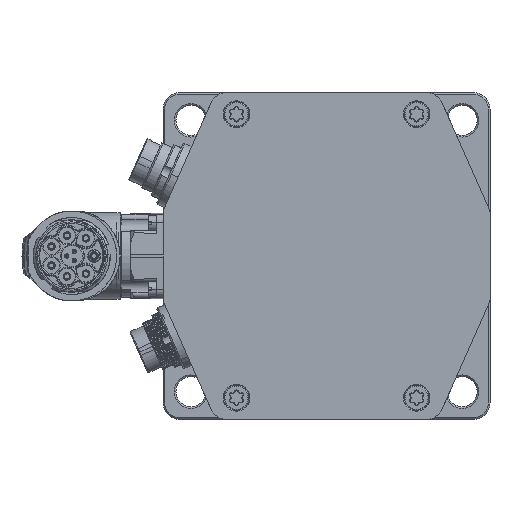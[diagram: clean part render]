
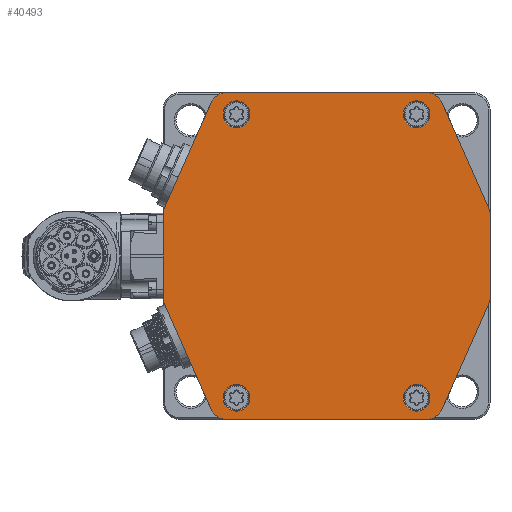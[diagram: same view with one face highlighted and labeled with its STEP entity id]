
A CAD part, left-side view. The second image highlights one B-rep face of the part: STEP entity #40493.
In plain terms, the highlighted planar face has unit normal (-1, 0, 0).
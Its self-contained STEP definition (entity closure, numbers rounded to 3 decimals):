
#2376=CARTESIAN_POINT('',(-275.,-30.,-44.));
#2377=DIRECTION('',(-1.,0.,0.));
#2378=DIRECTION('',(0.,0.,-1.));
#2379=AXIS2_PLACEMENT_3D('',#2376,#2377,#2378);
#2381=DIRECTION('',(0.,-1.,0.));
#2382=VECTOR('',#2381,60.);
#2383=CARTESIAN_POINT('',(-275.,30.,-49.));
#2384=LINE('',#2383,#2382);
#2385=CARTESIAN_POINT('',(-275.,30.,-44.));
#2386=DIRECTION('',(-1.,0.,0.));
#2387=DIRECTION('',(0.,0.914,-0.405));
#2388=AXIS2_PLACEMENT_3D('',#2385,#2386,#2387);
#2390=DIRECTION('',(0.,-0.405,-0.914));
#2391=VECTOR('',#2390,35.228);
#2392=CARTESIAN_POINT('',(-275.,48.829,-13.809));
#2393=LINE('',#2392,#2391);
#2394=CARTESIAN_POINT('',(-275.,47.,-13.));
#2395=DIRECTION('',(-1.,0.,0.));
#2396=DIRECTION('',(0.,1.,0.));
#2397=AXIS2_PLACEMENT_3D('',#2394,#2395,#2396);
#2399=DIRECTION('',(0.,0.,-1.));
#2400=VECTOR('',#2399,26.);
#2401=CARTESIAN_POINT('',(-275.,49.,13.));
#2402=LINE('',#2401,#2400);
#2403=CARTESIAN_POINT('',(-275.,47.,13.));
#2404=DIRECTION('',(-1.,0.,0.));
#2405=DIRECTION('',(0.,0.914,0.405));
#2406=AXIS2_PLACEMENT_3D('',#2403,#2404,#2405);
#2408=DIRECTION('',(0.,0.405,-0.914));
#2409=VECTOR('',#2408,35.228);
#2410=CARTESIAN_POINT('',(-275.,34.572,46.023));
#2411=LINE('',#2410,#2409);
#2412=CARTESIAN_POINT('',(-275.,30.,44.));
#2413=DIRECTION('',(-1.,0.,0.));
#2414=DIRECTION('',(0.,0.,1.));
#2415=AXIS2_PLACEMENT_3D('',#2412,#2413,#2414);
#2417=DIRECTION('',(0.,1.,0.));
#2418=VECTOR('',#2417,60.);
#2419=CARTESIAN_POINT('',(-275.,-30.,49.));
#2420=LINE('',#2419,#2418);
#2421=CARTESIAN_POINT('',(-275.,-30.,44.));
#2422=DIRECTION('',(-1.,0.,0.));
#2423=DIRECTION('',(0.,-0.914,0.405));
#2424=AXIS2_PLACEMENT_3D('',#2421,#2422,#2423);
#2426=DIRECTION('',(0.,0.405,0.914));
#2427=VECTOR('',#2426,35.228);
#2428=CARTESIAN_POINT('',(-275.,-48.829,13.809));
#2429=LINE('',#2428,#2427);
#2430=CARTESIAN_POINT('',(-275.,-47.,13.));
#2431=DIRECTION('',(-1.,0.,0.));
#2432=DIRECTION('',(0.,-1.,0.));
#2433=AXIS2_PLACEMENT_3D('',#2430,#2431,#2432);
#2435=DIRECTION('',(0.,0.,1.));
#2436=VECTOR('',#2435,26.);
#2437=CARTESIAN_POINT('',(-275.,-49.,-13.));
#2438=LINE('',#2437,#2436);
#2439=CARTESIAN_POINT('',(-275.,-47.,-13.));
#2440=DIRECTION('',(-1.,0.,0.));
#2441=DIRECTION('',(0.,-0.914,-0.405));
#2442=AXIS2_PLACEMENT_3D('',#2439,#2440,#2441);
#2444=DIRECTION('',(0.,-0.405,0.914));
#2445=VECTOR('',#2444,35.228);
#2446=CARTESIAN_POINT('',(-275.,-34.572,-46.023));
#2447=LINE('',#2446,#2445);
#2448=CARTESIAN_POINT('',(-275.,27.,-42.5));
#2449=DIRECTION('',(-1.,0.,0.));
#2450=DIRECTION('',(0.,0.,-1.));
#2451=AXIS2_PLACEMENT_3D('',#2448,#2449,#2450);
#2453=CARTESIAN_POINT('',(-275.,27.,-42.5));
#2454=DIRECTION('',(-1.,0.,0.));
#2455=DIRECTION('',(0.,0.,1.));
#2456=AXIS2_PLACEMENT_3D('',#2453,#2454,#2455);
#2458=CARTESIAN_POINT('',(-275.,27.,42.5));
#2459=DIRECTION('',(1.,0.,0.));
#2460=DIRECTION('',(0.,0.,1.));
#2461=AXIS2_PLACEMENT_3D('',#2458,#2459,#2460);
#2463=CARTESIAN_POINT('',(-275.,27.,42.5));
#2464=DIRECTION('',(1.,0.,0.));
#2465=DIRECTION('',(0.,0.,-1.));
#2466=AXIS2_PLACEMENT_3D('',#2463,#2464,#2465);
#2468=CARTESIAN_POINT('',(-275.,-27.,-42.5));
#2469=DIRECTION('',(1.,0.,0.));
#2470=DIRECTION('',(0.,0.,-1.));
#2471=AXIS2_PLACEMENT_3D('',#2468,#2469,#2470);
#2473=CARTESIAN_POINT('',(-275.,-27.,-42.5));
#2474=DIRECTION('',(1.,0.,0.));
#2475=DIRECTION('',(0.,0.,1.));
#2476=AXIS2_PLACEMENT_3D('',#2473,#2474,#2475);
#2478=CARTESIAN_POINT('',(-275.,-27.,42.5));
#2479=DIRECTION('',(-1.,0.,0.));
#2480=DIRECTION('',(0.,0.,1.));
#2481=AXIS2_PLACEMENT_3D('',#2478,#2479,#2480);
#2483=CARTESIAN_POINT('',(-275.,-27.,42.5));
#2484=DIRECTION('',(-1.,0.,0.));
#2485=DIRECTION('',(0.,0.,-1.));
#2486=AXIS2_PLACEMENT_3D('',#2483,#2484,#2485);
#36277=CARTESIAN_POINT('',(-275.,-30.,-49.));
#36278=CARTESIAN_POINT('',(-275.,-34.572,-46.023));
#36279=VERTEX_POINT('',#36277);
#36280=VERTEX_POINT('',#36278);
#36281=CARTESIAN_POINT('',(-275.,-48.829,-13.809));
#36282=VERTEX_POINT('',#36281);
#36283=CARTESIAN_POINT('',(-275.,-49.,-13.));
#36284=VERTEX_POINT('',#36283);
#36285=CARTESIAN_POINT('',(-275.,-49.,13.));
#36286=VERTEX_POINT('',#36285);
#36287=CARTESIAN_POINT('',(-275.,-48.829,13.809));
#36288=VERTEX_POINT('',#36287);
#36289=CARTESIAN_POINT('',(-275.,-34.572,46.023));
#36290=VERTEX_POINT('',#36289);
#36291=CARTESIAN_POINT('',(-275.,-30.,49.));
#36292=VERTEX_POINT('',#36291);
#36293=CARTESIAN_POINT('',(-275.,30.,49.));
#36294=VERTEX_POINT('',#36293);
#36295=CARTESIAN_POINT('',(-275.,34.572,46.023));
#36296=VERTEX_POINT('',#36295);
#36297=CARTESIAN_POINT('',(-275.,48.829,13.809));
#36298=VERTEX_POINT('',#36297);
#36299=CARTESIAN_POINT('',(-275.,49.,13.));
#36300=VERTEX_POINT('',#36299);
#36301=CARTESIAN_POINT('',(-275.,49.,-13.));
#36302=VERTEX_POINT('',#36301);
#36303=CARTESIAN_POINT('',(-275.,48.829,-13.809));
#36304=VERTEX_POINT('',#36303);
#36305=CARTESIAN_POINT('',(-275.,34.572,-46.023));
#36306=VERTEX_POINT('',#36305);
#36307=CARTESIAN_POINT('',(-275.,30.,-49.));
#36308=VERTEX_POINT('',#36307);
#36321=CARTESIAN_POINT('',(-275.,27.,-46.5));
#36322=CARTESIAN_POINT('',(-275.,27.,-38.5));
#36323=VERTEX_POINT('',#36321);
#36324=VERTEX_POINT('',#36322);
#36329=CARTESIAN_POINT('',(-275.,27.,46.5));
#36330=VERTEX_POINT('',#36329);
#36331=CARTESIAN_POINT('',(-275.,27.,38.5));
#36332=VERTEX_POINT('',#36331);
#36337=CARTESIAN_POINT('',(-275.,-27.,-46.5));
#36338=VERTEX_POINT('',#36337);
#36339=CARTESIAN_POINT('',(-275.,-27.,-38.5));
#36340=VERTEX_POINT('',#36339);
#36345=CARTESIAN_POINT('',(-275.,-27.,46.5));
#36346=VERTEX_POINT('',#36345);
#36347=CARTESIAN_POINT('',(-275.,-27.,38.5));
#36348=VERTEX_POINT('',#36347);
#40446=CARTESIAN_POINT('',(-275.,0.,0.));
#40447=DIRECTION('',(-1.,0.,0.));
#40448=DIRECTION('',(0.,1.,0.));
#40449=AXIS2_PLACEMENT_3D('',#40446,#40447,#40448);
#40450=PLANE('',#40449);
#40451=ORIENTED_EDGE('',*,*,#40230,.F.);
#40452=ORIENTED_EDGE('',*,*,#40245,.F.);
#40453=ORIENTED_EDGE('',*,*,#40259,.F.);
#40454=ORIENTED_EDGE('',*,*,#40273,.F.);
#40455=ORIENTED_EDGE('',*,*,#40287,.F.);
#40456=ORIENTED_EDGE('',*,*,#40301,.F.);
#40457=ORIENTED_EDGE('',*,*,#40315,.F.);
#40458=ORIENTED_EDGE('',*,*,#40329,.F.);
#40459=ORIENTED_EDGE('',*,*,#40343,.F.);
#40460=ORIENTED_EDGE('',*,*,#40357,.F.);
#40461=ORIENTED_EDGE('',*,*,#40371,.F.);
#40462=ORIENTED_EDGE('',*,*,#40385,.F.);
#40463=ORIENTED_EDGE('',*,*,#40399,.F.);
#40464=ORIENTED_EDGE('',*,*,#40413,.F.);
#40465=ORIENTED_EDGE('',*,*,#40427,.F.);
#40466=ORIENTED_EDGE('',*,*,#40440,.F.);
#40467=EDGE_LOOP('',(#40451,#40452,#40453,#40454,#40455,#40456,#40457,#40458,
#40459,#40460,#40461,#40462,#40463,#40464,#40465,#40466));
#40468=FACE_OUTER_BOUND('',#40467,.F.);
#40470=ORIENTED_EDGE('',*,*,#40469,.T.);
#40472=ORIENTED_EDGE('',*,*,#40471,.T.);
#40473=EDGE_LOOP('',(#40470,#40472));
#40474=FACE_BOUND('',#40473,.F.);
#40476=ORIENTED_EDGE('',*,*,#40475,.F.);
#40478=ORIENTED_EDGE('',*,*,#40477,.F.);
#40479=EDGE_LOOP('',(#40476,#40478));
#40480=FACE_BOUND('',#40479,.F.);
#40482=ORIENTED_EDGE('',*,*,#40481,.F.);
#40484=ORIENTED_EDGE('',*,*,#40483,.F.);
#40485=EDGE_LOOP('',(#40482,#40484));
#40486=FACE_BOUND('',#40485,.F.);
#40488=ORIENTED_EDGE('',*,*,#40487,.T.);
#40490=ORIENTED_EDGE('',*,*,#40489,.T.);
#40491=EDGE_LOOP('',(#40488,#40490));
#40492=FACE_BOUND('',#40491,.F.);
#40493=ADVANCED_FACE('',(#40468,#40474,#40480,#40486,#40492),#40450,.T.);
#2380=CIRCLE('',#2379,5.);
#2389=CIRCLE('',#2388,5.);
#2398=CIRCLE('',#2397,2.);
#2407=CIRCLE('',#2406,2.);
#2416=CIRCLE('',#2415,5.);
#2425=CIRCLE('',#2424,5.);
#2434=CIRCLE('',#2433,2.);
#2443=CIRCLE('',#2442,2.);
#2452=CIRCLE('',#2451,4.);
#2457=CIRCLE('',#2456,4.);
#2462=CIRCLE('',#2461,4.);
#2467=CIRCLE('',#2466,4.);
#2472=CIRCLE('',#2471,4.);
#2477=CIRCLE('',#2476,4.);
#2482=CIRCLE('',#2481,4.);
#2487=CIRCLE('',#2486,4.);
#40230=EDGE_CURVE('',#36279,#36280,#2380,.T.);
#40245=EDGE_CURVE('',#36308,#36279,#2384,.T.);
#40259=EDGE_CURVE('',#36306,#36308,#2389,.T.);
#40273=EDGE_CURVE('',#36304,#36306,#2393,.T.);
#40287=EDGE_CURVE('',#36302,#36304,#2398,.T.);
#40301=EDGE_CURVE('',#36300,#36302,#2402,.T.);
#40315=EDGE_CURVE('',#36298,#36300,#2407,.T.);
#40329=EDGE_CURVE('',#36296,#36298,#2411,.T.);
#40343=EDGE_CURVE('',#36294,#36296,#2416,.T.);
#40357=EDGE_CURVE('',#36292,#36294,#2420,.T.);
#40371=EDGE_CURVE('',#36290,#36292,#2425,.T.);
#40385=EDGE_CURVE('',#36288,#36290,#2429,.T.);
#40399=EDGE_CURVE('',#36286,#36288,#2434,.T.);
#40413=EDGE_CURVE('',#36284,#36286,#2438,.T.);
#40427=EDGE_CURVE('',#36282,#36284,#2443,.T.);
#40440=EDGE_CURVE('',#36280,#36282,#2447,.T.);
#40469=EDGE_CURVE('',#36323,#36324,#2452,.T.);
#40471=EDGE_CURVE('',#36324,#36323,#2457,.T.);
#40475=EDGE_CURVE('',#36330,#36332,#2462,.T.);
#40477=EDGE_CURVE('',#36332,#36330,#2467,.T.);
#40481=EDGE_CURVE('',#36338,#36340,#2472,.T.);
#40483=EDGE_CURVE('',#36340,#36338,#2477,.T.);
#40487=EDGE_CURVE('',#36346,#36348,#2482,.T.);
#40489=EDGE_CURVE('',#36348,#36346,#2487,.T.);
